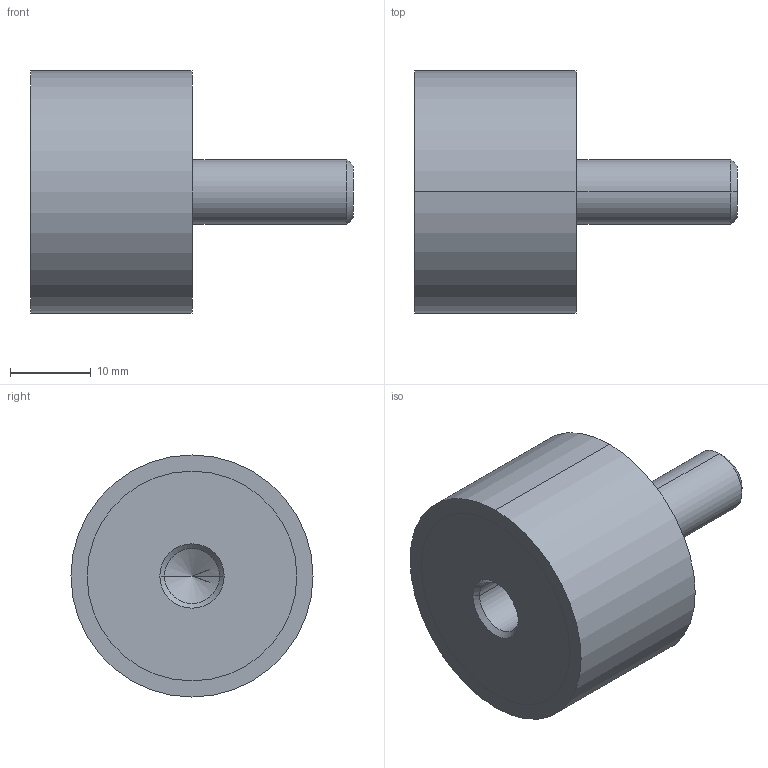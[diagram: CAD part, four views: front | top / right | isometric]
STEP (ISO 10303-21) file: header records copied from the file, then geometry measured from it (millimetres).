
FILE_DESCRIPTION (( 'STEP AP214' ), '1' );
FILE_NAME ('351-30-20-M8-ES-40.step', '2025-07-23T09:58:15', ( '' ), ( '' ), 'SwSTEP 2.0', 'SolidWorks 2022', '' );
FILE_SCHEMA (( 'AUTOMOTIVE_DESIGN' ));
Length unit declared in the file: millimetre
Products named in the file (1): 351-30-20-M8-ES-40
Bounding box: 40 x 30 x 30 mm (x, y, z)
Volume: 14771.7 mm3; surface area: 3980.9 mm2
Topology: 1 solids, 1 shells, 24 faces, 48 edges, 29 vertices
Faces by surface type: cylinder 12, cone 6, plane 6
Entity records: 740 total; most frequent: DIRECTION 124, CARTESIAN_POINT 100, ORIENTED_EDGE 92, AXIS2_PLACEMENT_3D 53, EDGE_CURVE 46, VERTEX_POINT 29, EDGE_LOOP 29, CIRCLE 28
